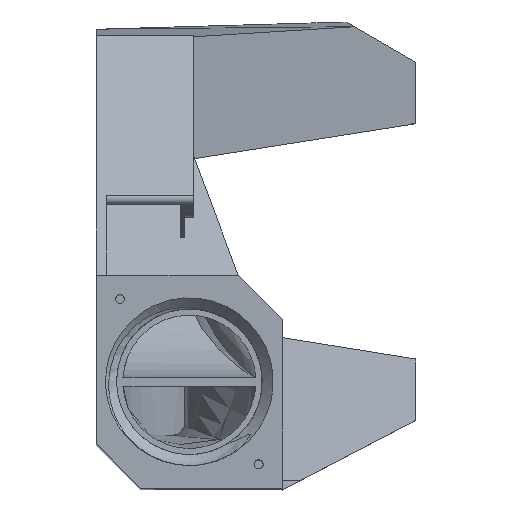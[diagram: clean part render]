
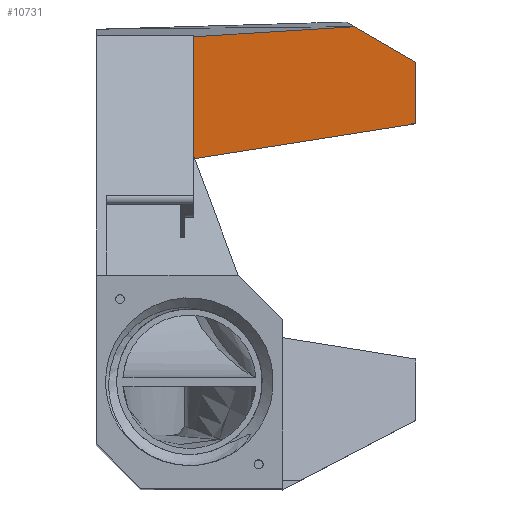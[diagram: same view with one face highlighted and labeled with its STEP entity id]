
A CAD part, top view. The second image highlights one B-rep face of the part: STEP entity #10731.
In plain terms, the highlighted planar face has unit normal (0.632, -0.14, 0.762).
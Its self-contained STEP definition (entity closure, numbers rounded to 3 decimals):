
#979=B_SPLINE_CURVE_WITH_KNOTS('',1,(#20674,#20675),.UNSPECIFIED.,.F.,.F.,
(2,2),(0.,1.),.PIECEWISE_BEZIER_KNOTS.);
#2248=ORIENTED_EDGE('',*,*,#5144,.F.);
#2249=ORIENTED_EDGE('',*,*,#5146,.F.);
#2250=ORIENTED_EDGE('',*,*,#5188,.T.);
#2251=ORIENTED_EDGE('',*,*,#5252,.T.);
#2252=ORIENTED_EDGE('',*,*,#4653,.F.);
#4653=EDGE_CURVE('',#6271,#6272,#7141,.F.);
#5144=EDGE_CURVE('',#6668,#6271,#7466,.T.);
#5146=EDGE_CURVE('',#6670,#6668,#7468,.T.);
#5188=EDGE_CURVE('',#6670,#6296,#7489,.T.);
#5252=EDGE_CURVE('',#6296,#6272,#979,.F.);
#6271=VERTEX_POINT('',#17309);
#6272=VERTEX_POINT('',#17310);
#6296=VERTEX_POINT('',#17369);
#6668=VERTEX_POINT('',#19151);
#6670=VERTEX_POINT('',#19156);
#7141=LINE('',#17308,#8059);
#7466=LINE('',#19152,#8384);
#7468=LINE('',#19157,#8386);
#7489=LINE('',#19320,#8407);
#8059=VECTOR('',#13443,1000.);
#8384=VECTOR('',#14066,1000.);
#8386=VECTOR('',#14070,1000.);
#8407=VECTOR('',#14131,1000.);
#9049=EDGE_LOOP('',(#2248,#2249,#2250,#2251,#2252));
#9706=FACE_BOUND('',#9049,.T.);
#10259=PLANE('',#12766);
#10731=ADVANCED_FACE('',(#9706),#10259,.T.);
#12766=AXIS2_PLACEMENT_3D('',#20673,#14224,#14225);
#13443=DIRECTION('',(0.,-0.984,-0.181));
#14066=DIRECTION('',(-0.775,-0.123,0.62));
#14070=DIRECTION('',(0.,-0.984,-0.181));
#14131=DIRECTION('',(-0.673,0.388,0.63));
#14224=DIRECTION('',(0.632,-0.14,0.762));
#14225=DIRECTION('',(0.769,0.,-0.639));
#17308=CARTESIAN_POINT('',(-20.,24.249,-67.747));
#17309=CARTESIAN_POINT('',(-20.,9.263,-70.498));
#17310=CARTESIAN_POINT('',(-20.,23.,-67.976));
#17369=CARTESIAN_POINT('',(-1.914,24.156,-82.775));
#19151=CARTESIAN_POINT('',(5.,13.24,-90.519));
#19152=CARTESIAN_POINT('',(5.,13.24,-90.519));
#19156=CARTESIAN_POINT('',(5.,20.164,-89.247));
#19157=CARTESIAN_POINT('',(5.,20.164,-89.247));
#19320=CARTESIAN_POINT('',(3.954,20.768,-88.268));
#20673=CARTESIAN_POINT('',(-14.099,25.119,-72.485));
#20674=CARTESIAN_POINT('',(-20.,23.,-67.976));
#20675=CARTESIAN_POINT('',(-1.914,24.156,-82.775));
